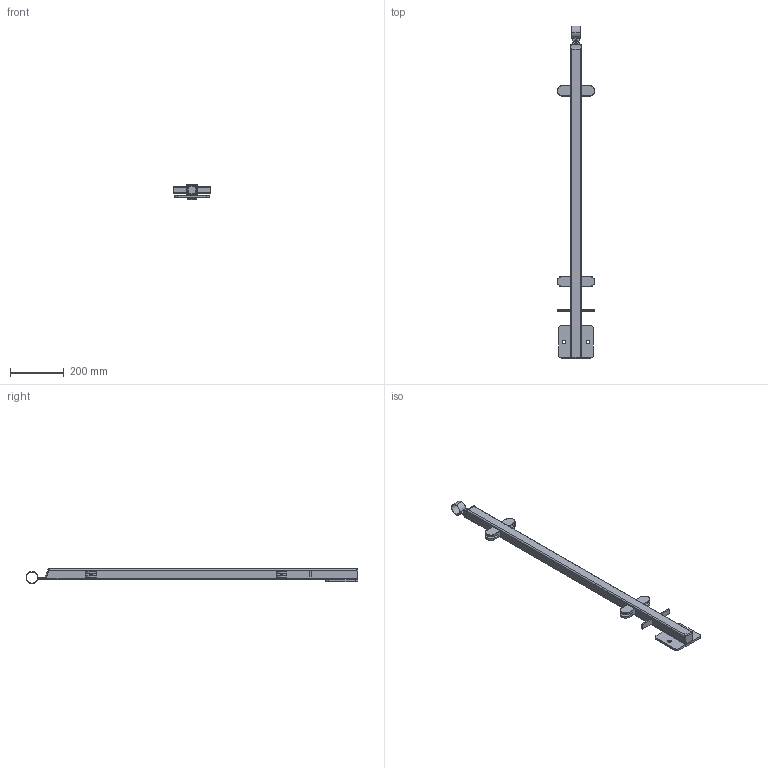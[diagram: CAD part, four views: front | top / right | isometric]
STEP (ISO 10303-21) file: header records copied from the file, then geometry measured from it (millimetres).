
FILE_DESCRIPTION (( 'STEP AP203' ), '1' );
FILE_NAME ('Ståndare KKR 40x40x3 sidomontage glas mitt.STEP', '2014-09-26T06:33:43', ( '' ), ( '' ), 'SwSTEP 2.0', 'SolidWorks 2014', '' );
FILE_SCHEMA (( 'CONFIG_CONTROL_DESIGN' ));
Length unit declared in the file: millimetre
Products named in the file (1): Ståndare KKR 40x40x3 sidomontage glas mitt
Bounding box: 140 x 1236.5 x 56.67 mm (x, y, z)
Volume: 779518.9 mm3; surface area: 427270 mm2
Topology: 2 solids, 6 shells, 504 faces, 1279 edges, 784 vertices
Faces by surface type: plane 250, cylinder 190, torus 32, cone 24, bspline 8
Entity records: 15422 total; most frequent: CARTESIAN_POINT 3086, DIRECTION 2623, ORIENTED_EDGE 2542, EDGE_CURVE 1271, AXIS2_PLACEMENT_3D 921, VERTEX_POINT 784, LINE 781, VECTOR 781
